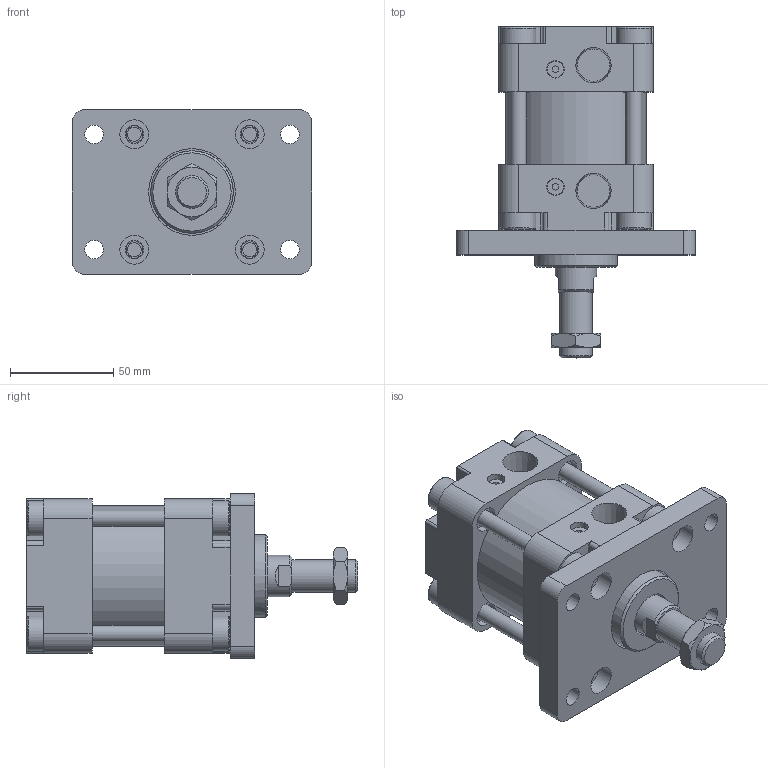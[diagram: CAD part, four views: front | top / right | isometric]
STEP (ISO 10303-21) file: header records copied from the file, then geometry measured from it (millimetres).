
FILE_DESCRIPTION(/* description */ ('Unknown'),/* implementation_level */ '2;1');
FILE_NAME(/* name */ 'WA63-0-FA',/* time_stamp */ '2026-07-17T16:53:59+08:00',/* author */ ('Unknown'),/* organization */ ('Unknown'),/* preprocessor_version */ 'ST-DEVELOPER v16.7',/* originating_system */ 'DEX',/* authorisation */ $);
FILE_SCHEMA (('CONFIG_CONTROL_DESIGN'));
Length unit declared in the file: millimetre
Products named in the file (8): WA63-0-FA; WA63_後; WA63_､ﾟｶbｬ｡_;m^XD}; WA63_鋁; WA63_玡嶈搵; M16-1.5P-8_螺; WA63_T帽牙; WA63_FA
Assembly tree (10 placements, depth 2):
  WA63-0-FA
    WA63_後
    WA63_､ﾟｶbｬ｡_;m^XD}
    WA63_鋁
    WA63_玡嶈搵
    M16-1.5P-8_螺
    WA63_T帽牙  x4
    WA63_FA
Bounding box: 116 x 161 x 80 mm (x, y, z)
Volume: 545823.5 mm3; surface area: 139026.2 mm2
Topology: 10 solids, 10 shells, 389 faces, 935 edges, 627 vertices
Faces by surface type: plane 215, cylinder 137, cone 29, torus 8
Full cylindrical faces by diameter (mm): 6.8 x8, 8 x6, 8.5 x2, 9 x8, 12 x8, 12.5 x8, 14 x4, 14.5 x1, 15.806 x2, 16 x1, 17 x8, 20 x2, 40 x1, 42 x1, 62.5 x1, 63 x3, 68 x1
Entity records: 10127 total; most frequent: CARTESIAN_POINT 1489, DIRECTION 1470, ORIENTED_EDGE 1278, EDGE_CURVE 639, AXIS2_PLACEMENT_3D 564, VERTEX_POINT 455, EDGE_LOOP 410, FACE_BOUND 410
